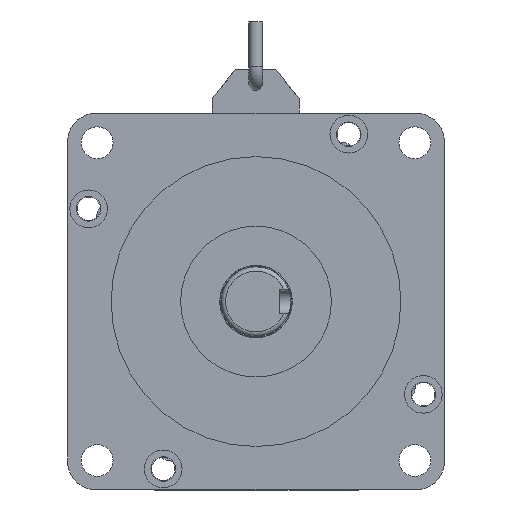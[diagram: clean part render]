
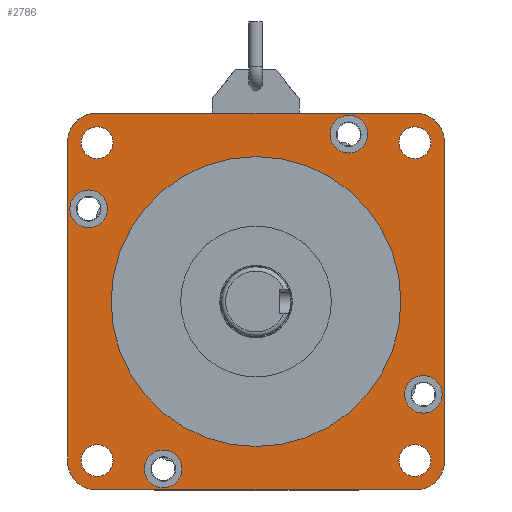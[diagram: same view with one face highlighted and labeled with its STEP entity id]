
A CAD part, front view. The second image highlights one B-rep face of the part: STEP entity #2786.
In plain terms, the highlighted planar face has unit normal (0, -1, 0).
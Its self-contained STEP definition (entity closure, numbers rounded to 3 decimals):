
#710=LINE('',#12779,#1572);
#717=LINE('',#12793,#1579);
#724=LINE('',#12807,#1586);
#731=LINE('',#12821,#1593);
#1572=VECTOR('',#10147,1.);
#1579=VECTOR('',#10156,1.);
#1586=VECTOR('',#10165,1.);
#1593=VECTOR('',#10174,1.);
#2087=PLANE('',#8570);
#2786=ADVANCED_FACE('',(#3227,#3228,#3229,#3230,#3231,#3232,#3233,#3234,
#3235,#3236),#2087,.T.);
#3227=FACE_BOUND('',#3758,.T.);
#3228=FACE_BOUND('',#3759,.T.);
#3229=FACE_BOUND('',#3760,.T.);
#3230=FACE_BOUND('',#3761,.T.);
#3231=FACE_BOUND('',#3762,.T.);
#3232=FACE_BOUND('',#3763,.T.);
#3233=FACE_BOUND('',#3764,.T.);
#3234=FACE_BOUND('',#3765,.T.);
#3235=FACE_BOUND('',#3766,.T.);
#3236=FACE_BOUND('',#3767,.T.);
#3758=EDGE_LOOP('',(#5486));
#3759=EDGE_LOOP('',(#5487));
#3760=EDGE_LOOP('',(#5488));
#3761=EDGE_LOOP('',(#5489));
#3762=EDGE_LOOP('',(#5490));
#3763=EDGE_LOOP('',(#5491));
#3764=EDGE_LOOP('',(#5492));
#3765=EDGE_LOOP('',(#5493));
#3766=EDGE_LOOP('',(#5494));
#3767=EDGE_LOOP('',(#5495,#5496,#5497,#5498,#5499,#5500,#5501,#5502));
#5486=ORIENTED_EDGE('',*,*,#7678,.T.);
#5487=ORIENTED_EDGE('',*,*,#7676,.T.);
#5488=ORIENTED_EDGE('',*,*,#7674,.T.);
#5489=ORIENTED_EDGE('',*,*,#7672,.T.);
#5490=ORIENTED_EDGE('',*,*,#7663,.T.);
#5491=ORIENTED_EDGE('',*,*,#7661,.T.);
#5492=ORIENTED_EDGE('',*,*,#7659,.T.);
#5493=ORIENTED_EDGE('',*,*,#7665,.T.);
#5494=ORIENTED_EDGE('',*,*,#7681,.T.);
#5495=ORIENTED_EDGE('',*,*,#7643,.F.);
#5496=ORIENTED_EDGE('',*,*,#7652,.T.);
#5497=ORIENTED_EDGE('',*,*,#7650,.F.);
#5498=ORIENTED_EDGE('',*,*,#7658,.T.);
#5499=ORIENTED_EDGE('',*,*,#7629,.F.);
#5500=ORIENTED_EDGE('',*,*,#7656,.T.);
#5501=ORIENTED_EDGE('',*,*,#7636,.F.);
#5502=ORIENTED_EDGE('',*,*,#7654,.T.);
#6642=VERTEX_POINT('',#12768);
#6647=VERTEX_POINT('',#12778);
#6648=VERTEX_POINT('',#12782);
#6653=VERTEX_POINT('',#12792);
#6654=VERTEX_POINT('',#12796);
#6659=VERTEX_POINT('',#12806);
#6660=VERTEX_POINT('',#12810);
#6665=VERTEX_POINT('',#12820);
#6666=VERTEX_POINT('',#12836);
#6668=VERTEX_POINT('',#12841);
#6670=VERTEX_POINT('',#12846);
#6672=VERTEX_POINT('',#12851);
#6679=VERTEX_POINT('',#12870);
#6681=VERTEX_POINT('',#12875);
#6683=VERTEX_POINT('',#12880);
#6685=VERTEX_POINT('',#12885);
#6688=VERTEX_POINT('',#12894);
#7629=EDGE_CURVE('',#6647,#6642,#710,.T.);
#7636=EDGE_CURVE('',#6653,#6648,#717,.T.);
#7643=EDGE_CURVE('',#6659,#6654,#724,.T.);
#7650=EDGE_CURVE('',#6665,#6660,#731,.T.);
#7652=EDGE_CURVE('',#6659,#6660,#8043,.T.);
#7654=EDGE_CURVE('',#6653,#6654,#8045,.T.);
#7656=EDGE_CURVE('',#6647,#6648,#8047,.T.);
#7658=EDGE_CURVE('',#6665,#6642,#8049,.T.);
#7659=EDGE_CURVE('',#6666,#6666,#8050,.T.);
#7661=EDGE_CURVE('',#6668,#6668,#8052,.T.);
#7663=EDGE_CURVE('',#6670,#6670,#8054,.T.);
#7665=EDGE_CURVE('',#6672,#6672,#8056,.T.);
#7672=EDGE_CURVE('',#6679,#6679,#8063,.T.);
#7674=EDGE_CURVE('',#6681,#6681,#8065,.T.);
#7676=EDGE_CURVE('',#6683,#6683,#8067,.T.);
#7678=EDGE_CURVE('',#6685,#6685,#8069,.T.);
#7681=EDGE_CURVE('',#6688,#6688,#8072,.T.);
#8043=CIRCLE('',#8521,10.);
#8045=CIRCLE('',#8524,10.);
#8047=CIRCLE('',#8527,10.);
#8049=CIRCLE('',#8530,10.);
#8050=CIRCLE('',#8532,5.5);
#8052=CIRCLE('',#8535,5.5);
#8054=CIRCLE('',#8538,5.5);
#8056=CIRCLE('',#8541,5.5);
#8063=CIRCLE('',#8553,6.5);
#8065=CIRCLE('',#8556,6.5);
#8067=CIRCLE('',#8559,6.5);
#8069=CIRCLE('',#8562,6.5);
#8072=CIRCLE('',#8568,50.);
#8521=AXIS2_PLACEMENT_3D('',#12824,#10179,#10180);
#8524=AXIS2_PLACEMENT_3D('',#12827,#10185,#10186);
#8527=AXIS2_PLACEMENT_3D('',#12830,#10191,#10192);
#8530=AXIS2_PLACEMENT_3D('',#12833,#10197,#10198);
#8532=AXIS2_PLACEMENT_3D('',#12835,#10201,#10202);
#8535=AXIS2_PLACEMENT_3D('',#12840,#10207,#10208);
#8538=AXIS2_PLACEMENT_3D('',#12845,#10213,#10214);
#8541=AXIS2_PLACEMENT_3D('',#12850,#10219,#10220);
#8553=AXIS2_PLACEMENT_3D('',#12869,#10243,#10244);
#8556=AXIS2_PLACEMENT_3D('',#12874,#10249,#10250);
#8559=AXIS2_PLACEMENT_3D('',#12879,#10255,#10256);
#8562=AXIS2_PLACEMENT_3D('',#12884,#10261,#10262);
#8568=AXIS2_PLACEMENT_3D('',#12893,#10273,#10274);
#8570=AXIS2_PLACEMENT_3D('',#12896,#10277,#10278);
#10147=DIRECTION('',(0.,0.,1.));
#10156=DIRECTION('',(-1.,0.,0.));
#10165=DIRECTION('',(0.,0.,-1.));
#10174=DIRECTION('',(1.,0.,0.));
#10179=DIRECTION('',(0.,-1.,0.));
#10180=DIRECTION('',(-1.,0.,0.));
#10185=DIRECTION('',(0.,-1.,0.));
#10186=DIRECTION('',(-1.,0.,0.));
#10191=DIRECTION('',(0.,-1.,0.));
#10192=DIRECTION('',(-1.,0.,0.));
#10197=DIRECTION('',(0.,-1.,0.));
#10198=DIRECTION('',(-1.,0.,0.));
#10201=DIRECTION('',(0.,1.,0.));
#10202=DIRECTION('',(0.,0.,1.));
#10207=DIRECTION('',(0.,1.,0.));
#10208=DIRECTION('',(-1.,0.,0.));
#10213=DIRECTION('',(0.,1.,0.));
#10214=DIRECTION('',(0.,0.,-1.));
#10219=DIRECTION('',(0.,1.,0.));
#10220=DIRECTION('',(1.,0.,0.));
#10243=DIRECTION('',(0.,1.,0.));
#10244=DIRECTION('',(0.,0.,1.));
#10249=DIRECTION('',(0.,1.,0.));
#10250=DIRECTION('',(-1.,0.,0.));
#10255=DIRECTION('',(0.,1.,0.));
#10256=DIRECTION('',(0.,0.,-1.));
#10261=DIRECTION('',(0.,1.,0.));
#10262=DIRECTION('',(1.,0.,0.));
#10273=DIRECTION('',(0.,1.,0.));
#10274=DIRECTION('',(-1.,0.,0.));
#10277=DIRECTION('',(0.,-1.,0.));
#10278=DIRECTION('',(-1.,0.,0.));
#12768=CARTESIAN_POINT('',(-61.464,-994.118,102.721));
#12778=CARTESIAN_POINT('',(-61.464,-994.118,-7.279));
#12779=CARTESIAN_POINT('',(-61.464,-994.118,47.721));
#12782=CARTESIAN_POINT('',(-51.464,-994.118,-17.279));
#12792=CARTESIAN_POINT('',(58.536,-994.118,-17.279));
#12793=CARTESIAN_POINT('',(3.536,-994.118,-17.279));
#12796=CARTESIAN_POINT('',(68.536,-994.118,-7.279));
#12806=CARTESIAN_POINT('',(68.536,-994.118,102.721));
#12807=CARTESIAN_POINT('',(68.536,-994.118,47.721));
#12810=CARTESIAN_POINT('',(58.536,-994.118,112.721));
#12820=CARTESIAN_POINT('',(-51.464,-994.118,112.721));
#12821=CARTESIAN_POINT('',(3.536,-994.118,112.721));
#12824=CARTESIAN_POINT('',(58.536,-994.118,102.721));
#12827=CARTESIAN_POINT('',(58.536,-994.118,-7.279));
#12830=CARTESIAN_POINT('',(-51.464,-994.118,-7.279));
#12833=CARTESIAN_POINT('',(-51.464,-994.118,102.721));
#12835=CARTESIAN_POINT('',(58.337,-994.118,102.522));
#12836=CARTESIAN_POINT('',(58.337,-994.118,108.022));
#12840=CARTESIAN_POINT('',(-51.264,-994.118,102.522));
#12841=CARTESIAN_POINT('',(-56.764,-994.118,102.522));
#12845=CARTESIAN_POINT('',(-51.264,-994.118,-7.079));
#12846=CARTESIAN_POINT('',(-51.264,-994.118,-12.579));
#12850=CARTESIAN_POINT('',(58.337,-994.118,-7.079));
#12851=CARTESIAN_POINT('',(63.837,-994.118,-7.079));
#12869=CARTESIAN_POINT('',(61.261,-994.118,15.724));
#12870=CARTESIAN_POINT('',(61.261,-994.118,22.224));
#12874=CARTESIAN_POINT('',(35.534,-994.118,105.446));
#12875=CARTESIAN_POINT('',(29.034,-994.118,105.446));
#12879=CARTESIAN_POINT('',(-54.189,-994.118,79.719));
#12880=CARTESIAN_POINT('',(-54.189,-994.118,73.219));
#12884=CARTESIAN_POINT('',(-28.461,-994.118,-10.004));
#12885=CARTESIAN_POINT('',(-21.961,-994.118,-10.004));
#12893=CARTESIAN_POINT('',(3.536,-994.118,47.721));
#12894=CARTESIAN_POINT('',(-46.464,-994.118,47.721));
#12896=CARTESIAN_POINT('',(3.536,-994.118,47.721));
